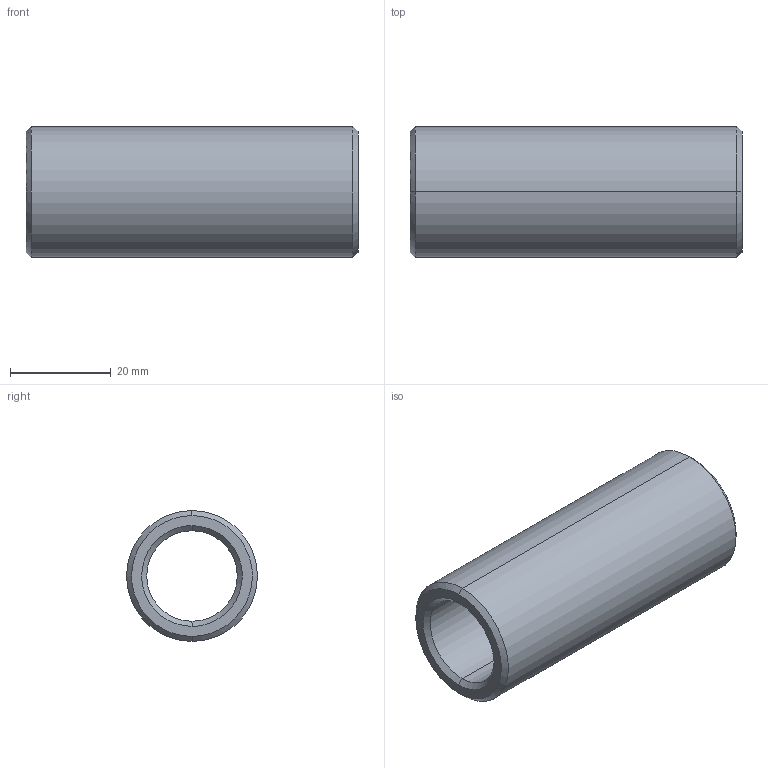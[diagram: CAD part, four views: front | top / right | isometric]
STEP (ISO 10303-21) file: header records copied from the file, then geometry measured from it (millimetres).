
FILE_DESCRIPTION(('CATIA V5 STEP Exchange'),'2;1');
FILE_NAME('C:\Users\Utente\Desktop\IO LAVORO\3D X SITO CF\X SITO\PLASTICA\352\352-18X66.stp','2021-04-12T15:39:01+00:00',('none'),('none'),'CATIA Version 5 Release 20 GA (IN-10)','CATIA V5 STEP AP203','none');
FILE_SCHEMA(('CONFIG_CONTROL_DESIGN'));
Length unit declared in the file: millimetre
Products named in the file (1): 352-18X66
Bounding box: 66 x 26 x 26 mm (x, y, z)
Volume: 18125 mm3; surface area: 9522.2 mm2
Topology: 1 solids, 1 shells, 14 faces, 44 edges, 32 vertices
Faces by surface type: cone 6, cylinder 4, plane 2, torus 2
Entity records: 634 total; most frequent: CARTESIAN_POINT 203, ORIENTED_EDGE 88, DIRECTION 64, EDGE_CURVE 44, AXIS2_PLACEMENT_3D 41, VERTEX_POINT 32, CIRCLE 26, EDGE_LOOP 16
